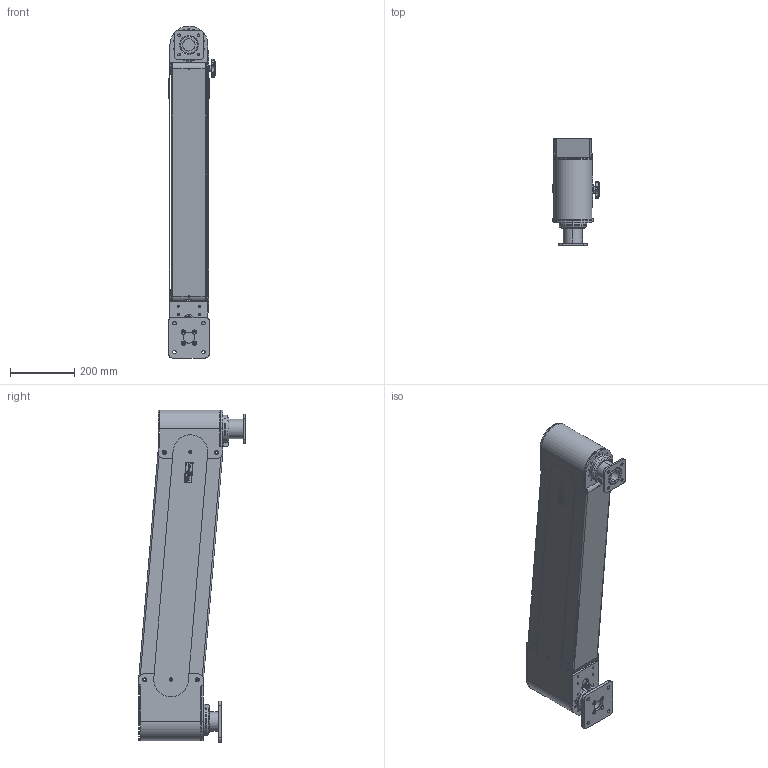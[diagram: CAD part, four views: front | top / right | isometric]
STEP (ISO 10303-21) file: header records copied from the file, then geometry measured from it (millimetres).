
FILE_DESCRIPTION (( 'STEP AP203' ), '1' );
FILE_NAME ('vhd36.STEP', '2009-04-01T16:59:00', ( '' ), ( '' ), 'SwSTEP 2.0', 'SolidWorks 2007', '' );
FILE_SCHEMA (( 'CONFIG_CONTROL_DESIGN' ));
Products named in the file (50): 87933203_87934756; 87932212; 87932196; 87936760; 87936752; 87936748; 87936754; 87934738; 87937583; 87937585; 87937575; 87937569; 87937587; 87934438; 87939216; 87936758; 87949495; 87938765; 87933047; 87932202; 87932220_87934720; 87937563; 87934736; 87937567; 87936689; 87935692; 87937571; 87937561; 87933718; 87928600; vhd36; 87932164; 87933045; 87932168; 87932160; 87932166; 87932214; 87933205; 87932222_87934716; 87932216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
Assembly tree (83 placements, depth 4):
  vhd36
    87933718  x2
    87938765
    87932200  x2
    87932202
    87932174
      99412159  x4
      87932172
      87932170
      87932162
    87934434  x2
    87932220_87934720
      99404303_99401498  x4
      87932214
    87932212
      87932194
      87932196
      87932192
    87934736
      87934438  x10
      87937583
      87937561
      87936760  x2
      87937585
      87936754
        87934738
        87935692
        87936689
      87939216  x2
      87937571
      87937563
      87937587  x3
      87937575
      87937567
      87936758
      87937569
      87936752
        87936748
        87934738
        87935692
    87932168
      99412159  x2
      87932166
      87932160
      87932164
    87928600  x2
    87949495
    87933047
      87933045
      87932194
    87932222_87934716
      99404303_99401498  x4
      87932216
      87933205
        87935692  x2
        87933203_87934756
Bounding box: 146.16 x 332.71 x 1034.37 mm (x, y, z)
Volume: 2833902.1 mm3; surface area: 1799371.2 mm2
Topology: 74 solids, 74 shells, 2572 faces, 6366 edges, 3966 vertices
Faces by surface type: cylinder 930, plane 764, bspline 451, cone 328, torus 85, sphere 14
Entity records: 155713 total; most frequent: CARTESIAN_POINT 108933, ORIENTED_EDGE 8772, DIRECTION 7893, EDGE_CURVE 4386, AXIS2_PLACEMENT_3D 2922, VERTEX_POINT 2757, LINE 2049, VECTOR 2049
